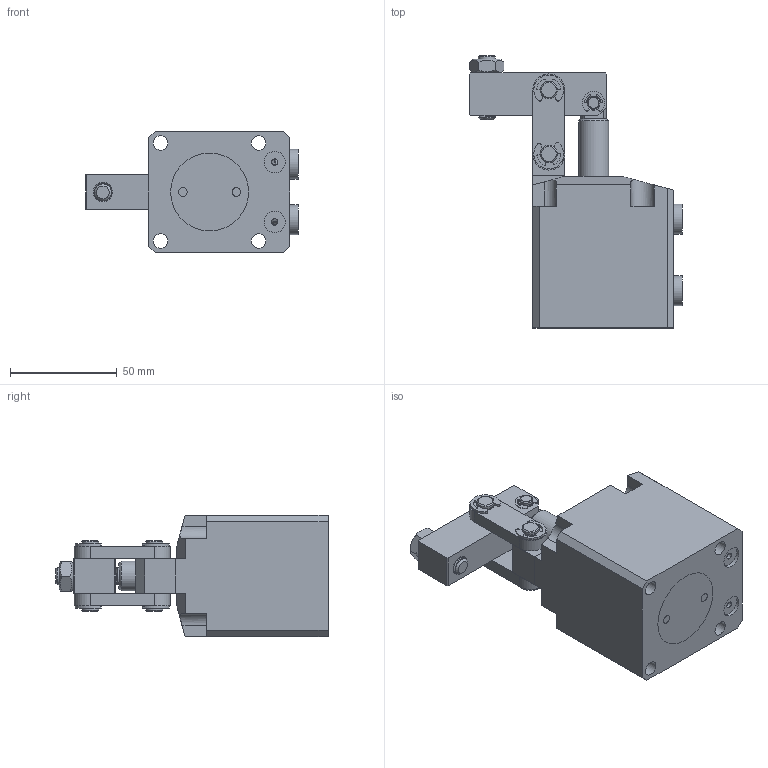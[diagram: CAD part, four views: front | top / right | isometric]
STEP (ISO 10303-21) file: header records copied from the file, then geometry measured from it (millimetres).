
FILE_DESCRIPTION(/* description */ ('STEP AP203'),/* implementation_level */ '2;1');
FILE_NAME(/* name */ 'D:\Vault_2016\Projekty\Clamptek\Hydraulic\CBLU\CBLU-35\STEP\CBLU-35G.stp',/* time_stamp */ '2021-05-06T12:28:00+02:00',/* author */ ('user'),/* organization */ (''),/* preprocessor_version */ 'ST-DEVELOPER v18.1',/* originating_system */ 'Autodesk Inventor 2021',/* authorisation */ '');
FILE_SCHEMA (('AUTOMOTIVE_DESIGN { 1 0 10303 214 3 1 1 }'));
Length unit declared in the file: millimetre
Products named in the file (16): CBLU-35G; ±¾ÌåC_1_3_1_1; »îÈû¸Ë_1_3_1; ºó¸Ç_1; ºó¸ÇO»·; ÖáÓÃÓÍ·â; 35Ñ¹±Û_1; Ö§³Å; Á¬¸Ë_1; ÏúÖá2; ÏúÖá1; 8MM¿ª¿Úµ²È¦; 6MM¿ª¿Úµ²È¦; ÂÝË¿; M8ÂÝÄ¸; Áã¼þ2
Assembly tree (22 placements, depth 2):
  CBLU-35G
    ±¾ÌåC_1_3_1_1
    »îÈû¸Ë_1_3_1
    ºó¸Ç_1
    ºó¸ÇO»·
    ÖáÓÃÓÍ·â
    35Ñ¹±Û_1
    Ö§³Å
    Á¬¸Ë_1  x2
    ÏúÖá2  x2
    ÏúÖá1
    8MM¿ª¿Úµ²È¦  x4
    6MM¿ª¿Úµ²È¦  x2
    ÂÝË¿
    M8ÂÝÄ¸
    Áã¼þ2  x2
Bounding box: 99.5 x 127.5 x 57 mm (x, y, z)
Volume: 279902.7 mm3; surface area: 69333.4 mm2
Topology: 22 solids, 22 shells, 398 faces, 954 edges, 626 vertices
Faces by surface type: plane 187, cylinder 158, cone 35, bspline 12, torus 6
Full cylindrical faces by diameter (mm): 2.5 x2, 3 x1, 4 x2, 5 x2, 6 x6, 6.8 x4, 7 x4, 8 x35, 9 x2, 10 x3, 11.8 x1, 14 x5, 22 x1, 32 x1, 35 x4, 38 x1
Entity records: 16340 total; most frequent: CARTESIAN_POINT 9047, DIRECTION 1466, ORIENTED_EDGE 1336, EDGE_CURVE 668, AXIS2_PLACEMENT_3D 556, VERTEX_POINT 437, LINE 354, VECTOR 354
